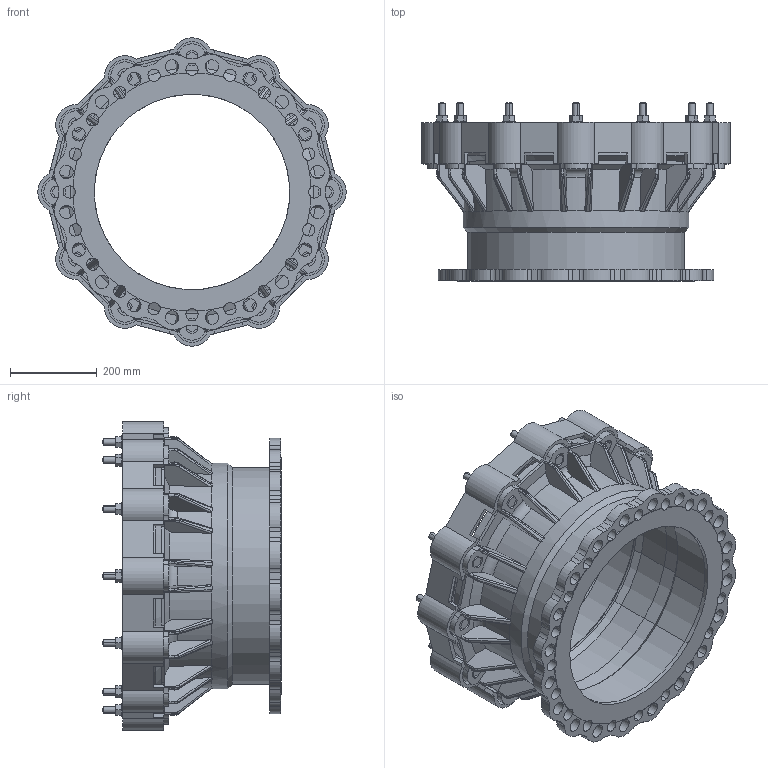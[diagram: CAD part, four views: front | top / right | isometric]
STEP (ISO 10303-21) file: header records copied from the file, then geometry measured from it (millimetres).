
FILE_DESCRIPTION((''),'2;1');
FILE_NAME('BIM_13199_23_ASM','2020-09-10T',('MReader'),(''),'CREO PARAMETRIC BY PTC INC, 2016130','CREO PARAMETRIC BY PTC INC, 2016130','');
FILE_SCHEMA(('CONFIG_CONTROL_DESIGN'));
Length unit declared in the file: millimetre
Products named in the file (6): 448-492X450; 448-492_GASKET_BIM; _BIM_13417_1; BIM_M16_BOLT_140; BIM_M16_NUT; BIM_13199_23_ASM
Assembly tree (27 placements, depth 2):
  BIM_13199_23_ASM
    448-492X450
    448-492_GASKET_BIM
    _BIM_13417_1
    BIM_M16_BOLT_140  x12
    BIM_M16_NUT  x12
Bounding box: 709.65 x 411 x 709.65 mm (x, y, z)
Volume: 16317923.1 mm3; surface area: 2880299.5 mm2
Topology: 27 solids, 27 shells, 1066 faces, 2874 edges, 1858 vertices
Faces by surface type: plane 430, cylinder 422, bspline 120, cone 58, sphere 24, torus 12
Entity records: 32441 total; most frequent: CARTESIAN_POINT 11445, ORIENTED_EDGE 4600, DIRECTION 4166, EDGE_CURVE 2300, AXIS2_PLACEMENT_3D 1644, VERTEX_POINT 1495, EDGE_LOOP 945, CIRCLE 918
